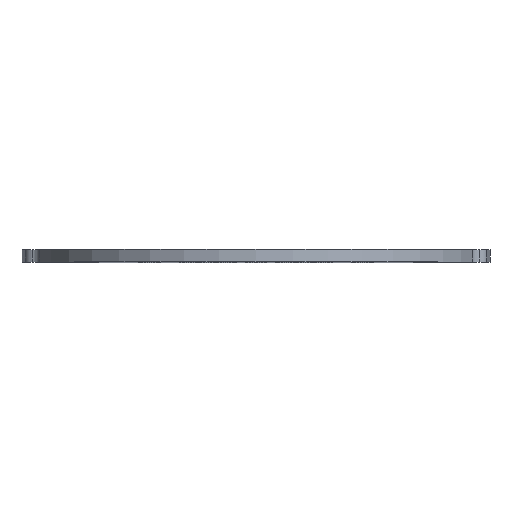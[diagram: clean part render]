
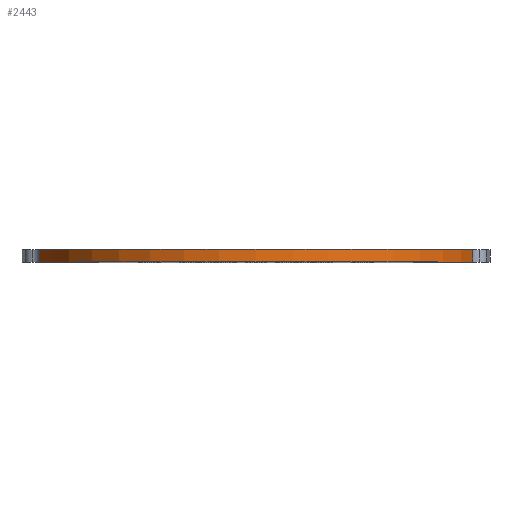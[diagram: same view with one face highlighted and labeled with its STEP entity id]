
A CAD part, top view. The second image highlights one B-rep face of the part: STEP entity #2443.
In plain terms, the highlighted cylindrical face has radius 107.95 mm (diameter 215.9 mm), a partial arc.
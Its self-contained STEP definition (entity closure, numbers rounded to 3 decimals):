
#9 = ORIENTED_EDGE ( 'NONE', *, *, #219, .F. ) ;
#60 = VERTEX_POINT ( 'NONE', #911 ) ;
#65 = CARTESIAN_POINT ( 'NONE',  ( 0., 6., 0. ) ) ;
#117 = DIRECTION ( 'NONE',  ( 0., 0., -1. ) ) ;
#158 = AXIS2_PLACEMENT_3D ( 'NONE', #65, #454, #271 ) ;
#219 = EDGE_CURVE ( 'NONE', #1619, #1439, #2263, .T. ) ;
#226 = CARTESIAN_POINT ( 'NONE',  ( 0., 0., 0. ) ) ;
#271 = DIRECTION ( 'NONE',  ( 0., 0., -1. ) ) ;
#335 = CARTESIAN_POINT ( 'NONE',  ( -104.514, 6., 27.019 ) ) ;
#340 = DIRECTION ( 'NONE',  ( 0., -1., 0. ) ) ;
#423 = AXIS2_PLACEMENT_3D ( 'NONE', #226, #2360, #1734 ) ;
#454 = DIRECTION ( 'NONE',  ( 0., -1., 0. ) ) ;
#852 = CARTESIAN_POINT ( 'NONE',  ( 104.514, 6., 27.019 ) ) ;
#878 = LINE ( 'NONE', #2069, #2023 ) ;
#911 = CARTESIAN_POINT ( 'NONE',  ( 104.514, 0., 27.019 ) ) ;
#1032 = ORIENTED_EDGE ( 'NONE', *, *, #2064, .T. ) ;
#1072 = VECTOR ( 'NONE', #340, 1000. ) ;
#1257 = VERTEX_POINT ( 'NONE', #2171 ) ;
#1318 = CARTESIAN_POINT ( 'NONE',  ( -104.514, 6., 27.019 ) ) ;
#1412 = ORIENTED_EDGE ( 'NONE', *, *, #1698, .T. ) ;
#1439 = VERTEX_POINT ( 'NONE', #852 ) ;
#1619 = VERTEX_POINT ( 'NONE', #1318 ) ;
#1631 = ORIENTED_EDGE ( 'NONE', *, *, #2554, .T. ) ;
#1658 = FACE_OUTER_BOUND ( 'NONE', #2111, .T. ) ;
#1660 = CARTESIAN_POINT ( 'NONE',  ( 0., 6., 0. ) ) ;
#1689 = DIRECTION ( 'NONE',  ( 0., 1., 0. ) ) ;
#1698 = EDGE_CURVE ( 'NONE', #1257, #60, #2433, .T. ) ;
#1734 = DIRECTION ( 'NONE',  ( 0., 0., -1. ) ) ;
#1849 = DIRECTION ( 'NONE',  ( 0., 1., 0. ) ) ;
#1853 = AXIS2_PLACEMENT_3D ( 'NONE', #1660, #1849, #117 ) ;
#1871 = CYLINDRICAL_SURFACE ( 'NONE', #158, 107.95 ) ;
#2023 = VECTOR ( 'NONE', #1689, 1000. ) ;
#2064 = EDGE_CURVE ( 'NONE', #1619, #1257, #2502, .T. ) ;
#2069 = CARTESIAN_POINT ( 'NONE',  ( 104.514, 6., 27.019 ) ) ;
#2111 = EDGE_LOOP ( 'NONE', ( #1412, #1631, #9, #1032 ) ) ;
#2171 = CARTESIAN_POINT ( 'NONE',  ( -104.514, 0., 27.019 ) ) ;
#2263 = CIRCLE ( 'NONE', #1853, 107.95 ) ;
#2360 = DIRECTION ( 'NONE',  ( 0., 1., 0. ) ) ;
#2433 = CIRCLE ( 'NONE', #423, 107.95 ) ;
#2443 = ADVANCED_FACE ( 'NONE', ( #1658 ), #1871, .T. ) ;
#2502 = LINE ( 'NONE', #335, #1072 ) ;
#2554 = EDGE_CURVE ( 'NONE', #60, #1439, #878, .T. ) ;
